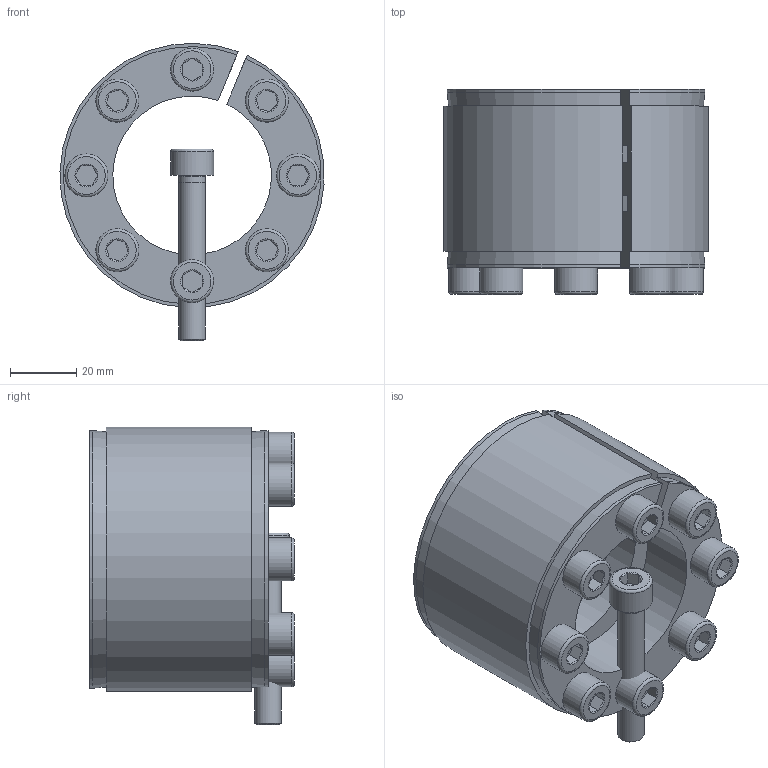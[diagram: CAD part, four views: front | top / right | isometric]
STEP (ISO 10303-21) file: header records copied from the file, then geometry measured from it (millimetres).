
FILE_DESCRIPTION( ( 'Unknown' ), '1' );
FILE_NAME( 'C:/Dokumente und Einstellungen/Sven/Desktop/homepage/cad - homepage/KBS11/KBS 11 - 48 x 80.stp', 'Unknown', ( 'Unknown' ), ( 'Unknown' ), 'XStep 1.0', 'Unknown', ' ' );
FILE_SCHEMA( ( 'automotive_design' ) );
Length unit declared in the file: millimetre
Products named in the file (3): Assem1; KBS 11 - 48 x 80; ISO EN DIN 4762 M8x50
Bounding box: 79.9 x 62 x 90 mm (x, y, z)
Volume: 282183.7 mm3; surface area: 110584.4 mm2
Topology: 11 solids, 11 shells, 313 faces, 669 edges, 414 vertices
Faces by surface type: plane 128, cylinder 96, cone 71, torus 18
Full cylindrical faces by diameter (mm): 7 x9, 8 x66, 13 x9
Entity records: 2474 total; most frequent: CARTESIAN_POINT 393, DIRECTION 364, ORIENTED_EDGE 274, AXIS2_PLACEMENT_3D 162, EDGE_LOOP 152, EDGE_CURVE 137, VERTEX_POINT 107, FACE_OUTER_BOUND 99
